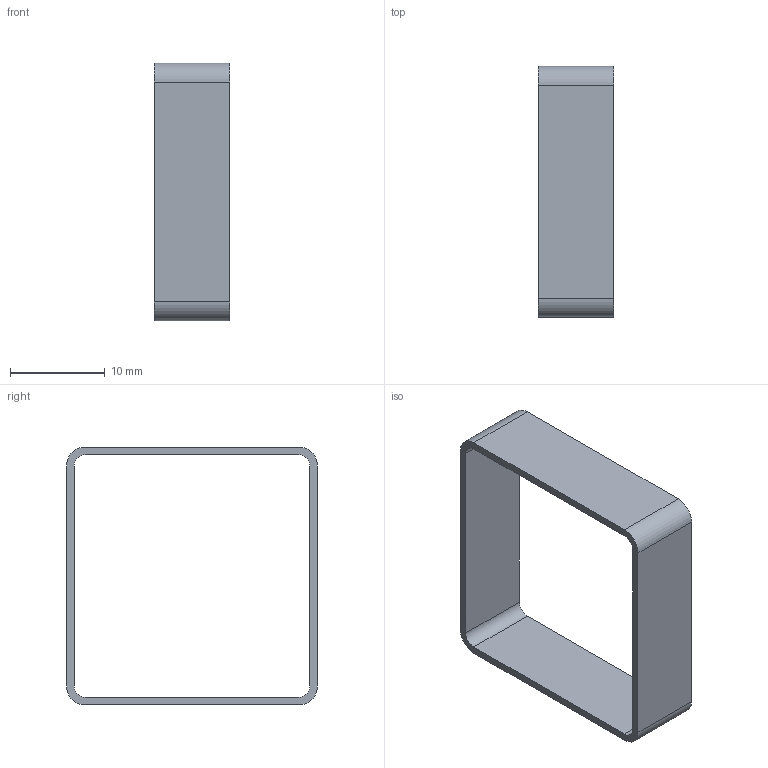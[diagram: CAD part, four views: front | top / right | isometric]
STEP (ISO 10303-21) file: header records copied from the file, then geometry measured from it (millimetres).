
FILE_DESCRIPTION(('Open CASCADE Model'),'2;1');
FILE_NAME('Open CASCADE Shape Model','2026-10-01T12:35:22',('Author'),( 'Open CASCADE'),'Open CASCADE STEP processor 7.8','Open CASCADE 7.8' ,'Unknown');
FILE_SCHEMA(('AUTOMOTIVE_DESIGN { 1 0 10303 214 1 1 1 1 }'));
Length unit declared in the file: millimetre
Products named in the file (2): H09_Battery_retaining_strap; H09_Battery_retaining_strap_solid
Assembly tree (1 placements, depth 2):
  H09_Battery_retaining_strap
    H09_Battery_retaining_strap_solid
Bounding box: 8 x 26.5 x 27.2 mm (x, y, z)
Volume: 649.3 mm3; surface area: 1785.6 mm2
Topology: 1 solids, 1 shells, 18 faces, 48 edges, 32 vertices
Faces by surface type: plane 10, cylinder 8
Entity records: 1223 total; most frequent: CARTESIAN_POINT 224, DIRECTION 182, ORIENTED_EDGE 96, LINE 96, VECTOR 96, PCURVE 96, DEFINITIONAL_REPRESENTATION 96, EDGE_CURVE 48
